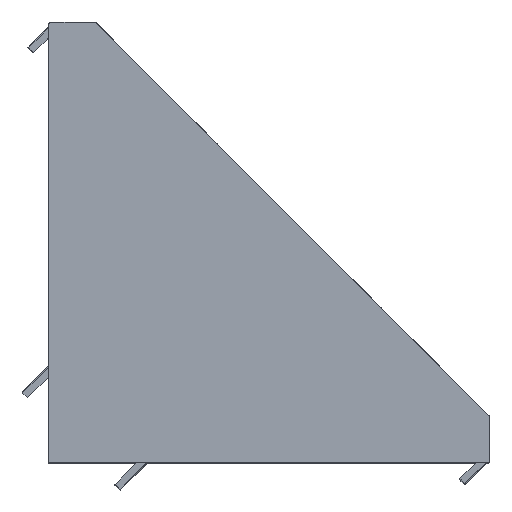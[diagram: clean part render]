
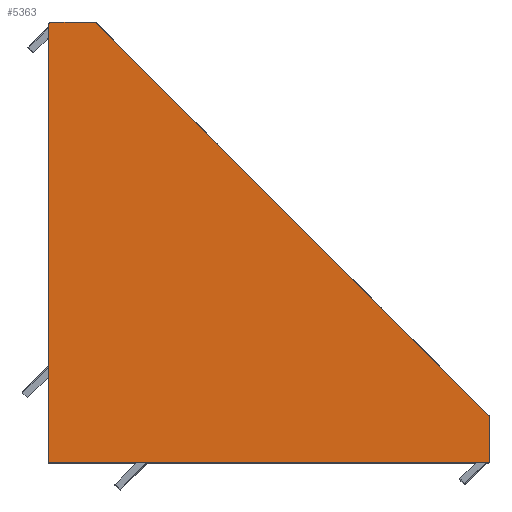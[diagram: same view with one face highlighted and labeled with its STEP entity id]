
A CAD part, top view. The second image highlights one B-rep face of the part: STEP entity #5363.
In plain terms, the highlighted planar face has unit normal (0, 0, 1).
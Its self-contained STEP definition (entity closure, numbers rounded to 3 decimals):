
#266 = ORIENTED_EDGE ( 'NONE', *, *, #6028, .T. ) ;
#268 = ORIENTED_EDGE ( 'NONE', *, *, #6103, .T. ) ;
#269 = ORIENTED_EDGE ( 'NONE', *, *, #6147, .F. ) ;
#302 = ORIENTED_EDGE ( 'NONE', *, *, #6149, .F. ) ;
#303 = ORIENTED_EDGE ( 'NONE', *, *, #6139, .T. ) ;
#304 = ORIENTED_EDGE ( 'NONE', *, *, #6150, .T. ) ;
#330 = ORIENTED_EDGE ( 'NONE', *, *, #6145, .T. ) ;
#1386 = ORIENTED_EDGE ( 'NONE', *, *, #16020, .F. ) ;
#5363 = ADVANCED_FACE ( 'NONE', ( #9618 ), #14024, .F. ) ;
#6028 = EDGE_CURVE ( 'NONE', #6461, #6840, #15291, .T. ) ;
#6103 = EDGE_CURVE ( 'NONE', #6840, #6857, #15521, .T. ) ;
#6139 = EDGE_CURVE ( 'NONE', #6762, #7034, #15608, .T. ) ;
#6145 = EDGE_CURVE ( 'NONE', #6562, #6933, #15646, .T. ) ;
#6147 = EDGE_CURVE ( 'NONE', #6518, #6933, #15648, .T. ) ;
#6149 = EDGE_CURVE ( 'NONE', #6762, #6518, #15644, .T. ) ;
#6150 = EDGE_CURVE ( 'NONE', #7034, #6461, #15663, .T. ) ;
#6461 = VERTEX_POINT ( 'NONE', #16522 ) ;
#6518 = VERTEX_POINT ( 'NONE', #16579 ) ;
#6562 = VERTEX_POINT ( 'NONE', #16623 ) ;
#6762 = VERTEX_POINT ( 'NONE', #16823 ) ;
#6840 = VERTEX_POINT ( 'NONE', #16901 ) ;
#6857 = VERTEX_POINT ( 'NONE', #16918 ) ;
#6933 = VERTEX_POINT ( 'NONE', #16994 ) ;
#7034 = VERTEX_POINT ( 'NONE', #17095 ) ;
#9618 = FACE_OUTER_BOUND ( 'NONE', #10407, .T. ) ;
#10407 = EDGE_LOOP ( 'NONE', ( #1386, #330, #269, #302, #303, #304, #266, #268 ) ) ;
#13008 = CARTESIAN_POINT ( 'NONE',  ( 57., -28.5, 28.5 ) ) ;
#13009 = DIRECTION ( 'NONE',  ( -1., 0., 0. ) ) ;
#13663 = LINE ( 'NONE', #13008, #13664 ) ;
#13664 = VECTOR ( 'NONE', #13009, 1000. ) ;
#14018 = CARTESIAN_POINT ( 'NONE',  ( 57., 28.5, 28.5 ) ) ;
#14024 = PLANE ( 'NONE',  #18176 ) ;
#14029 = DIRECTION ( 'NONE',  ( 0., 0., -1. ) ) ;
#14030 = DIRECTION ( 'NONE',  ( 0., 1., 0. ) ) ;
#15054 = CARTESIAN_POINT ( 'NONE',  ( 0., 28.5, 28.5 ) ) ;
#15063 = DIRECTION ( 'NONE',  ( 0., -1., 0. ) ) ;
#15291 = LINE ( 'NONE', #15054, #15315 ) ;
#15315 = VECTOR ( 'NONE', #15063, 1000. ) ;
#15521 = LINE ( 'NONE', #16288, #15523 ) ;
#15523 = VECTOR ( 'NONE', #16289, 1000. ) ;
#15608 = LINE ( 'NONE', #16385, #15616 ) ;
#15616 = VECTOR ( 'NONE', #16386, 1000. ) ;
#15644 = LINE ( 'NONE', #16391, #15656 ) ;
#15646 = CIRCLE ( 'NONE', #17595, 0.25 ) ;
#15648 = LINE ( 'NONE', #16404, #15650 ) ;
#15650 = VECTOR ( 'NONE', #16405, 1000. ) ;
#15656 = VECTOR ( 'NONE', #16409, 1000. ) ;
#15663 = CIRCLE ( 'NONE', #17591, 0.25 ) ;
#16020 = EDGE_CURVE ( 'NONE', #6562, #6857, #13663, .T. ) ;
#16288 = CARTESIAN_POINT ( 'NONE',  ( 0.01, -28.5, 28.5 ) ) ;
#16289 = DIRECTION ( 'NONE',  ( 0.707, -0.707, 0. ) ) ;
#16385 = CARTESIAN_POINT ( 'NONE',  ( 57., 28.5, 28.5 ) ) ;
#16386 = DIRECTION ( 'NONE',  ( -1., 0., 0. ) ) ;
#16387 = CARTESIAN_POINT ( 'NONE',  ( 56.75, -28.25, 28.5 ) ) ;
#16391 = CARTESIAN_POINT ( 'NONE',  ( 6., 28.5, 28.5 ) ) ;
#16400 = DIRECTION ( 'NONE',  ( 0., 0., 1. ) ) ;
#16401 = DIRECTION ( 'NONE',  ( 0., 1., 0. ) ) ;
#16404 = CARTESIAN_POINT ( 'NONE',  ( 57., 28.5, 28.5 ) ) ;
#16405 = DIRECTION ( 'NONE',  ( 0., -1., 0. ) ) ;
#16408 = CARTESIAN_POINT ( 'NONE',  ( 0.25, 28.25, 28.5 ) ) ;
#16409 = DIRECTION ( 'NONE',  ( 0.707, -0.707, 0. ) ) ;
#16410 = DIRECTION ( 'NONE',  ( 0., 0., 1. ) ) ;
#16411 = DIRECTION ( 'NONE',  ( 0., 1., 0. ) ) ;
#16522 = CARTESIAN_POINT ( 'NONE',  ( 0., 28.25, 28.5 ) ) ;
#16579 = CARTESIAN_POINT ( 'NONE',  ( 57., -22.5, 28.5 ) ) ;
#16623 = CARTESIAN_POINT ( 'NONE',  ( 56.75, -28.5, 28.5 ) ) ;
#16823 = CARTESIAN_POINT ( 'NONE',  ( 6., 28.5, 28.5 ) ) ;
#16901 = CARTESIAN_POINT ( 'NONE',  ( 0., -28.49, 28.5 ) ) ;
#16918 = CARTESIAN_POINT ( 'NONE',  ( 0.01, -28.5, 28.5 ) ) ;
#16994 = CARTESIAN_POINT ( 'NONE',  ( 57., -28.25, 28.5 ) ) ;
#17095 = CARTESIAN_POINT ( 'NONE',  ( 0.25, 28.5, 28.5 ) ) ;
#17591 = AXIS2_PLACEMENT_3D ( 'NONE', #16408, #16410, #16411 ) ;
#17595 = AXIS2_PLACEMENT_3D ( 'NONE', #16387, #16400, #16401 ) ;
#18176 = AXIS2_PLACEMENT_3D ( 'NONE', #14018, #14029, #14030 ) ;
